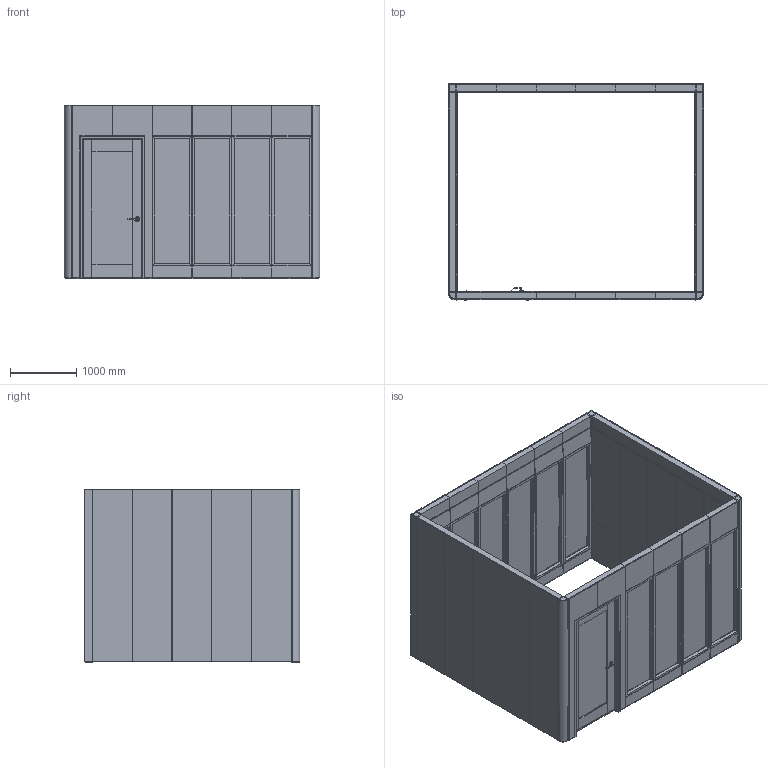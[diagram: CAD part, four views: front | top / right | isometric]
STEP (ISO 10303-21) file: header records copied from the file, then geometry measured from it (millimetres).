
FILE_DESCRIPTION(/* description */ (''),/* implementation_level */ '2;1');
FILE_NAME(/* name */ 'Share One',/* time_stamp */ '2026-06-15T16:35:37+12:00',/* author */ (''),/* organization */ (''),/* preprocessor_version */ 'ST-DEVELOPER v19.2',/* originating_system */ 'Rhino 8.31',/* authorisation */ '');
FILE_SCHEMA (('CONFIG_CONTROL_DESIGN'));
Length unit declared in the file: millimetre
Products named in the file (18): Document; DoorPanel_1200_2600_92_150_2150; 600x2600mm External Door Lining; 600x2600mm Internal Door Lining; 18mm Packer; 600x2400mm Internal Linings - MDF; CornerPost_2600_92; 92x2600mm External Corner Lining; 600x2600mm External Lining; 600x178mm Internal Lining; WindowPanel_600_2600_92_600_1950; 600x178mm External Lining; 600x464mm External Lining; 600x246mm Internal Lining; 600x740mm Internal Linings - Autex; 600x1656mm Internal Linings - Autex; 600x1656mm Internal Linings Short - Autex; 600x740mm Internal Linings Short - Autex
Bounding box: 3852 x 3254 x 2618 mm (x, y, z)
Volume: 1817050385.5 mm3; surface area: 214035432.9 mm2
Topology: 199 solids, 206 shells, 1447 faces, 3229 edges, 2191 vertices
Faces by surface type: plane 1417, cylinder 22, bspline 8
Entity records: 28524 total; most frequent: CARTESIAN_POINT 7956, ORIENTED_EDGE 4800, EDGE_CURVE 2458, B_SPLINE_CURVE_WITH_KNOTS 2331, VERTEX_POINT 1676, DIRECTION 1395, AXIS2_PLACEMENT_3D 1237, EDGE_LOOP 1111
